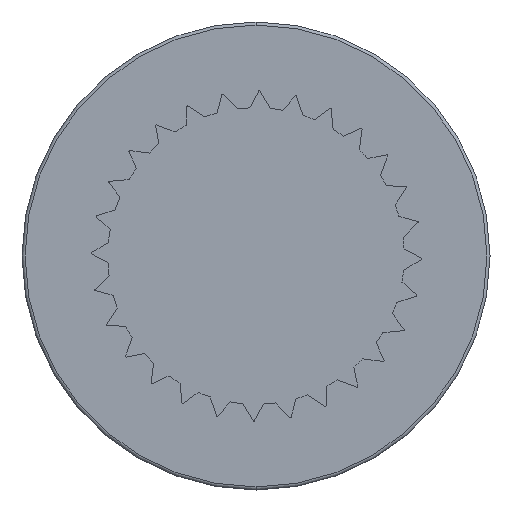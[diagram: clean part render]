
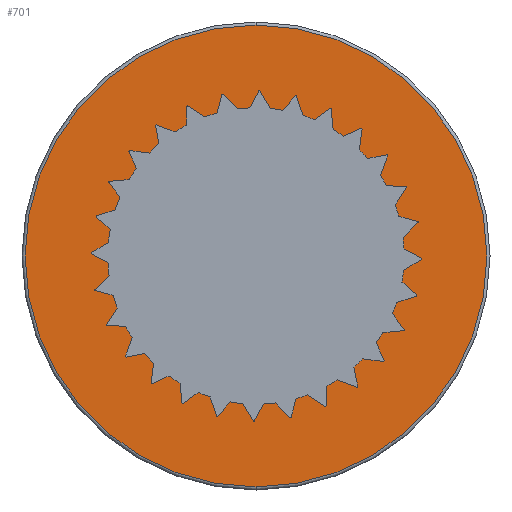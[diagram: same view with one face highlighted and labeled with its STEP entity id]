
A CAD part, front view. The second image highlights one B-rep face of the part: STEP entity #701.
In plain terms, the highlighted planar face has unit normal (0, -1, 0).
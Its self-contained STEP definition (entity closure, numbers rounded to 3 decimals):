
#31 = VERTEX_POINT ( 'NONE', #5546 ) ;
#324 = VERTEX_POINT ( 'NONE', #441 ) ;
#441 = CARTESIAN_POINT ( 'NONE',  ( 0., 525., -296. ) ) ;
#583 = EDGE_CURVE ( 'NONE', #324, #31, #2592, .T. ) ;
#696 = AXIS2_PLACEMENT_3D ( 'NONE', #1980, #3422, #1081 ) ;
#701 = ADVANCED_FACE ( 'NONE', ( #3521 ), #3049, .F. ) ;
#1012 = EDGE_LOOP ( 'NONE', ( #4768, #5110 ) ) ;
#1081 = DIRECTION ( 'NONE',  ( 0., 0., 1. ) ) ;
#1740 = AXIS2_PLACEMENT_3D ( 'NONE', #4037, #2246, #4157 ) ;
#1980 = CARTESIAN_POINT ( 'NONE',  ( 0., 525., 0. ) ) ;
#2246 = DIRECTION ( 'NONE',  ( 0., -1., 0. ) ) ;
#2592 = CIRCLE ( 'NONE', #696, 296. ) ;
#3049 = PLANE ( 'NONE',  #3254 ) ;
#3114 = CARTESIAN_POINT ( 'NONE',  ( 0., 525., 0. ) ) ;
#3254 = AXIS2_PLACEMENT_3D ( 'NONE', #3114, #5526, #4955 ) ;
#3422 = DIRECTION ( 'NONE',  ( 0., -1., 0. ) ) ;
#3521 = FACE_OUTER_BOUND ( 'NONE', #1012, .T. ) ;
#3543 = CIRCLE ( 'NONE', #1740, 296. ) ;
#4037 = CARTESIAN_POINT ( 'NONE',  ( 0., 525., 0. ) ) ;
#4157 = DIRECTION ( 'NONE',  ( 0., 0., 1. ) ) ;
#4768 = ORIENTED_EDGE ( 'NONE', *, *, #5430, .T. ) ;
#4955 = DIRECTION ( 'NONE',  ( 0., 0., 1. ) ) ;
#5110 = ORIENTED_EDGE ( 'NONE', *, *, #583, .T. ) ;
#5430 = EDGE_CURVE ( 'NONE', #31, #324, #3543, .T. ) ;
#5526 = DIRECTION ( 'NONE',  ( 0., 1., 0. ) ) ;
#5546 = CARTESIAN_POINT ( 'NONE',  ( 0., 525., 296. ) ) ;
